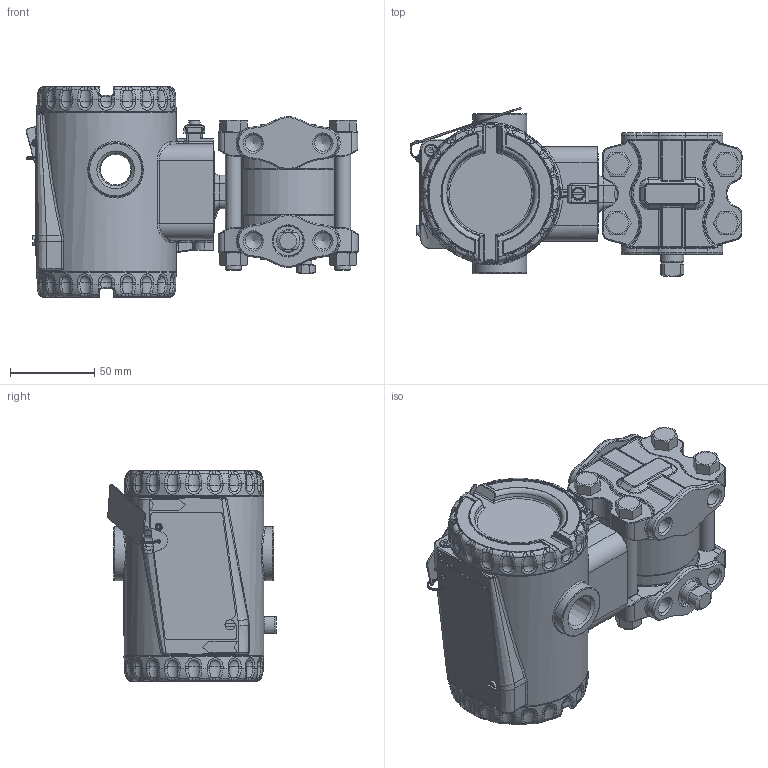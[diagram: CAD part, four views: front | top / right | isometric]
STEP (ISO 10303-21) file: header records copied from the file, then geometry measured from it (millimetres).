
FILE_DESCRIPTION(/* description */ (''),/* implementation_level */ '2;1');
FILE_NAME(/* name */ 'F:\Area\Desenvolvimento_2\Projects\Sensor\projetos\LD400-3d\dimensionais 3D clientes\LD400M5 1-4NPT purga abaixo.stp',/* time_stamp */ '2023-02-02T14:25:24-03:00',/* author */ ('inventor02'),/* organization */ (''),/* preprocessor_version */ 'ST-DEVELOPER v17',/* originating_system */ 'Autodesk Inventor 2019',/* authorisation */ '');
FILE_SCHEMA (('CONFIG_CONTROL_DESIGN'));
Products named in the file (30): LD400M5 1-4NPT purga abaixo; Carcaça 400 com tampas e plaqueta sem letras; 101-D-0845-05 carcaça LD400 sem letras; 101-B-3614-03-tampa 400 sem letras; Tampa visor 400 montada sem letras; 101-B-3612-05 tampa visor 400 sem letras; 101-A-6107; oring 2034; 00034775-0; WHW_250; DIN 915 - M6 x 10; Chapa aterramento externo; 201-A-1771-02 inserto terra recartilhado; AS 1969 - ST4,2; ISO 1207 - M4 x 8; ANSI B18.3.1M - M4x0,7 x 8; Subconjunto plaqueta 400; plaqueta 400 em branco; Parafuso da Plaqueta; Rebite da Plaqueta; 096-A-0169-03; 101-A-0502-01; manometrico standard fx5 purga abaixo; flange batente standard; flange diferencial std purga; bujao 1-4NPT; Sangria; involucro fx5 apos a usinagem final; Paraf. 3-8 x 16 UNC; Porca 3-8 x 16 UNC
Assembly tree (36 placements, depth 4):
  LD400M5 1-4NPT purga abaixo
    Carcaça 400 com tampas e plaqueta sem letras
      101-D-0845-05 carcaça LD400 sem letras
      101-B-3614-03-tampa 400 sem letras
      Tampa visor 400 montada sem letras
        101-B-3612-05 tampa visor 400 sem letras
        101-A-6107
        oring 2034
        00034775-0
        WHW_250
      DIN 915 - M6 x 10
      Chapa aterramento externo
      201-A-1771-02 inserto terra recartilhado
      AS 1969 - ST4,2
      ISO 1207 - M4 x 8
      ANSI B18.3.1M - M4x0,7 x 8  x2
      Subconjunto plaqueta 400
        plaqueta 400 em branco
        Parafuso da Plaqueta
        Rebite da Plaqueta
        096-A-0169-03
        101-A-0502-01
    manometrico standard fx5 purga abaixo
      flange batente standard
      flange diferencial std purga
      bujao 1-4NPT
      Sangria
      involucro fx5 apos a usinagem final
      Paraf. 3-8 x 16 UNC  x4
      Porca 3-8 x 16 UNC  x4
Bounding box: 197.25 x 100.09 x 125 mm (x, y, z)
Volume: 618666.8 mm3; surface area: 233098.1 mm2
Topology: 32 solids, 32 shells, 2578 faces, 6238 edges, 3710 vertices
Faces by surface type: plane 640, cylinder 621, bspline 613, torus 442, cone 191, sphere 71
Full cylindrical faces by diameter (mm): 2 x3, 2.1 x1, 2.2 x1, 2.459 x3, 2.7 x1, 3 x3, 3.242 x3, 3.571 x1, 4 x4, 4.3 x2, 4.4 x1, 4.917 x1, 5.5 x4, 6 x2, 6.1 x2, 6.2 x1, 6.647 x1, 7 x3, 7.6 x2, 7.798 x4, 8 x1, 9.525 x4, 9.728 x8, 10.5 x8, 10.719 x2, 13.8 x1, 14 x1, 18.3 x2, 18.5 x2, 32 x2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
Entity records: 93347 total; most frequent: CARTESIAN_POINT 35900, ORIENTED_EDGE 11964, DIRECTION 11788, EDGE_CURVE 5982, AXIS2_PLACEMENT_3D 5017, VERTEX_POINT 3584, CIRCLE 2894, EDGE_LOOP 2588
